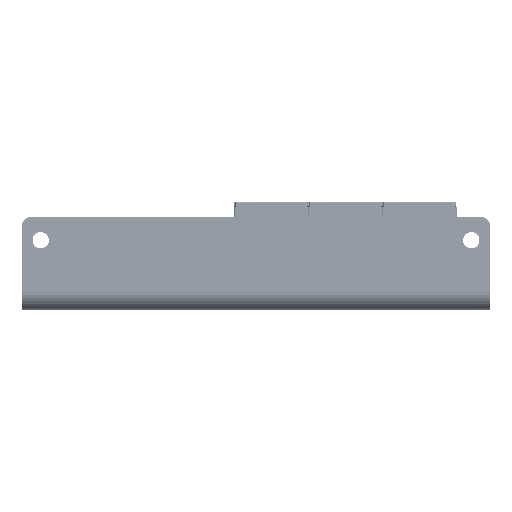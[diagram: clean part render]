
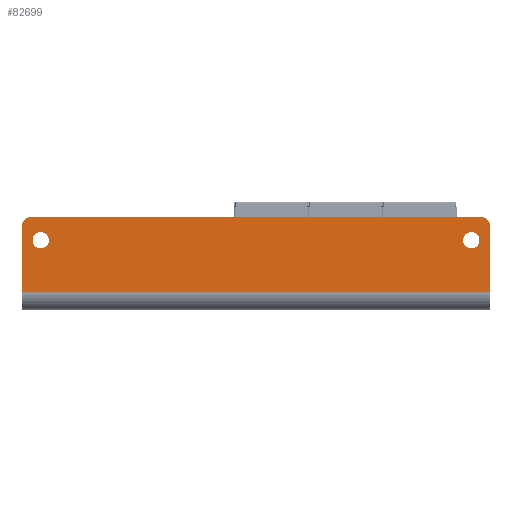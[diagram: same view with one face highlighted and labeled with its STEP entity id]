
A CAD part, front view. The second image highlights one B-rep face of the part: STEP entity #82699.
In plain terms, the highlighted planar face has unit normal (0, -1, 0).
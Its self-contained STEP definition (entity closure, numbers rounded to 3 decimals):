
#1501 = CIRCLE ( 'NONE', #94718, 1.75 ) ;
#2050 = VECTOR ( 'NONE', #147138, 1000. ) ;
#3275 = AXIS2_PLACEMENT_3D ( 'NONE', #107172, #158309, #43654 ) ;
#4001 = VECTOR ( 'NONE', #114824, 1000. ) ;
#5357 = ORIENTED_EDGE ( 'NONE', *, *, #15646, .T. ) ;
#8789 = DIRECTION ( 'NONE',  ( 0., 1., 0. ) ) ;
#9827 = CARTESIAN_POINT ( 'NONE',  ( 0., -4., -2.628 ) ) ;
#11023 = AXIS2_PLACEMENT_3D ( 'NONE', #23715, #74596, #125687 ) ;
#11115 = ORIENTED_EDGE ( 'NONE', *, *, #120163, .T. ) ;
#11659 = CARTESIAN_POINT ( 'NONE',  ( 4., -4., 6.622 ) ) ;
#13756 = DIRECTION ( 'NONE',  ( 0., 0., 1. ) ) ;
#15646 = EDGE_CURVE ( 'NONE', #41617, #32644, #101875, .T. ) ;
#18021 = CARTESIAN_POINT ( 'NONE',  ( 100., -4., 11.372 ) ) ;
#20977 = CARTESIAN_POINT ( 'NONE',  ( 96., -4., 6.622 ) ) ;
#21205 = VERTEX_POINT ( 'NONE', #11659 ) ;
#22598 = DIRECTION ( 'NONE',  ( 1., 0., 0. ) ) ;
#23715 = CARTESIAN_POINT ( 'NONE',  ( 0., -4., 0. ) ) ;
#24134 = DIRECTION ( 'NONE',  ( 0., 1., 0. ) ) ;
#24813 = CIRCLE ( 'NONE', #118205, 1.75 ) ;
#25561 = EDGE_CURVE ( 'NONE', #48292, #82659, #88035, .T. ) ;
#30402 = ORIENTED_EDGE ( 'NONE', *, *, #155887, .T. ) ;
#30553 = VERTEX_POINT ( 'NONE', #60953 ) ;
#32298 = DIRECTION ( 'NONE',  ( 0., -1., 0. ) ) ;
#32644 = VERTEX_POINT ( 'NONE', #43179 ) ;
#35437 = CARTESIAN_POINT ( 'NONE',  ( 96., -4., 10.122 ) ) ;
#36246 = FACE_BOUND ( 'NONE', #38171, .T. ) ;
#36762 = ORIENTED_EDGE ( 'NONE', *, *, #25561, .T. ) ;
#38171 = EDGE_LOOP ( 'NONE', ( #89968, #132424 ) ) ;
#41617 = VERTEX_POINT ( 'NONE', #50749 ) ;
#43179 = CARTESIAN_POINT ( 'NONE',  ( 0., -4., 11.372 ) ) ;
#43654 = DIRECTION ( 'NONE',  ( 0., 0., -1. ) ) ;
#45059 = LINE ( 'NONE', #95984, #2050 ) ;
#45200 = EDGE_CURVE ( 'NONE', #96296, #30553, #45059, .T. ) ;
#48292 = VERTEX_POINT ( 'NONE', #20977 ) ;
#48580 = EDGE_CURVE ( 'NONE', #96296, #62776, #80354, .T. ) ;
#48956 = CIRCLE ( 'NONE', #70223, 1.75 ) ;
#49703 = DIRECTION ( 'NONE',  ( 0., 0., 1. ) ) ;
#50569 = VECTOR ( 'NONE', #22598, 1000. ) ;
#50749 = CARTESIAN_POINT ( 'NONE',  ( 2., -4., 13.372 ) ) ;
#52886 = ORIENTED_EDGE ( 'NONE', *, *, #48580, .T. ) ;
#56466 = ORIENTED_EDGE ( 'NONE', *, *, #73089, .F. ) ;
#57270 = LINE ( 'NONE', #108338, #110540 ) ;
#59576 = DIRECTION ( 'NONE',  ( 0., 0., 1. ) ) ;
#60953 = CARTESIAN_POINT ( 'NONE',  ( 100., -4., -2.628 ) ) ;
#62776 = VERTEX_POINT ( 'NONE', #79361 ) ;
#63733 = CARTESIAN_POINT ( 'NONE',  ( 100., -4., 13.372 ) ) ;
#65971 = ORIENTED_EDGE ( 'NONE', *, *, #127361, .F. ) ;
#70223 = AXIS2_PLACEMENT_3D ( 'NONE', #138679, #24134, #75021 ) ;
#73089 = EDGE_CURVE ( 'NONE', #143650, #32644, #57270, .T. ) ;
#74596 = DIRECTION ( 'NONE',  ( 0., -1., 0. ) ) ;
#75021 = DIRECTION ( 'NONE',  ( 0., 0., 1. ) ) ;
#77148 = CARTESIAN_POINT ( 'NONE',  ( 96., -4., 8.372 ) ) ;
#79361 = CARTESIAN_POINT ( 'NONE',  ( 98., -4., 13.372 ) ) ;
#80316 = EDGE_LOOP ( 'NONE', ( #157931, #52886, #65971, #5357, #56466, #11115 ) ) ;
#80354 = CIRCLE ( 'NONE', #152647, 2. ) ;
#82659 = VERTEX_POINT ( 'NONE', #35437 ) ;
#82699 = ADVANCED_FACE ( 'NONE', ( #150867, #36246, #87136 ), #138265, .T. ) ;
#83174 = DIRECTION ( 'NONE',  ( 0., 0., -1. ) ) ;
#86024 = LINE ( 'NONE', #137135, #50569 ) ;
#87136 = FACE_OUTER_BOUND ( 'NONE', #80316, .T. ) ;
#88035 = CIRCLE ( 'NONE', #88137, 1.75 ) ;
#88137 = AXIS2_PLACEMENT_3D ( 'NONE', #123205, #8789, #59576 ) ;
#88199 = EDGE_CURVE ( 'NONE', #150005, #21205, #48956, .T. ) ;
#89968 = ORIENTED_EDGE ( 'NONE', *, *, #88199, .T. ) ;
#94718 = AXIS2_PLACEMENT_3D ( 'NONE', #113240, #164371, #49703 ) ;
#95984 = CARTESIAN_POINT ( 'NONE',  ( 100., -4., -4.628 ) ) ;
#95985 = EDGE_CURVE ( 'NONE', #21205, #150005, #1501, .T. ) ;
#96296 = VERTEX_POINT ( 'NONE', #18021 ) ;
#101875 = CIRCLE ( 'NONE', #3275, 2. ) ;
#107172 = CARTESIAN_POINT ( 'NONE',  ( 2., -4., 11.372 ) ) ;
#108338 = CARTESIAN_POINT ( 'NONE',  ( 0., -4., 13.372 ) ) ;
#110540 = VECTOR ( 'NONE', #159467, 1000. ) ;
#111414 = CARTESIAN_POINT ( 'NONE',  ( 4., -4., 10.122 ) ) ;
#113240 = CARTESIAN_POINT ( 'NONE',  ( 4., -4., 8.372 ) ) ;
#114824 = DIRECTION ( 'NONE',  ( 1., 0., 0. ) ) ;
#118205 = AXIS2_PLACEMENT_3D ( 'NONE', #77148, #128202, #13756 ) ;
#120163 = EDGE_CURVE ( 'NONE', #143650, #30553, #86024, .T. ) ;
#123205 = CARTESIAN_POINT ( 'NONE',  ( 96., -4., 8.372 ) ) ;
#125687 = DIRECTION ( 'NONE',  ( 0., 0., -1. ) ) ;
#127361 = EDGE_CURVE ( 'NONE', #41617, #62776, #139947, .T. ) ;
#128202 = DIRECTION ( 'NONE',  ( 0., 1., 0. ) ) ;
#132424 = ORIENTED_EDGE ( 'NONE', *, *, #95985, .T. ) ;
#137135 = CARTESIAN_POINT ( 'NONE',  ( 0., -4., -2.628 ) ) ;
#138265 = PLANE ( 'NONE',  #11023 ) ;
#138679 = CARTESIAN_POINT ( 'NONE',  ( 4., -4., 8.372 ) ) ;
#139947 = LINE ( 'NONE', #63733, #4001 ) ;
#143650 = VERTEX_POINT ( 'NONE', #9827 ) ;
#146908 = CARTESIAN_POINT ( 'NONE',  ( 98., -4., 11.372 ) ) ;
#147138 = DIRECTION ( 'NONE',  ( 0., 0., -1. ) ) ;
#148862 = EDGE_LOOP ( 'NONE', ( #30402, #36762 ) ) ;
#150005 = VERTEX_POINT ( 'NONE', #111414 ) ;
#150867 = FACE_BOUND ( 'NONE', #148862, .T. ) ;
#152647 = AXIS2_PLACEMENT_3D ( 'NONE', #146908, #32298, #83174 ) ;
#155887 = EDGE_CURVE ( 'NONE', #82659, #48292, #24813, .T. ) ;
#157931 = ORIENTED_EDGE ( 'NONE', *, *, #45200, .F. ) ;
#158309 = DIRECTION ( 'NONE',  ( 0., -1., 0. ) ) ;
#159467 = DIRECTION ( 'NONE',  ( 0., 0., 1. ) ) ;
#164371 = DIRECTION ( 'NONE',  ( 0., 1., 0. ) ) ;
